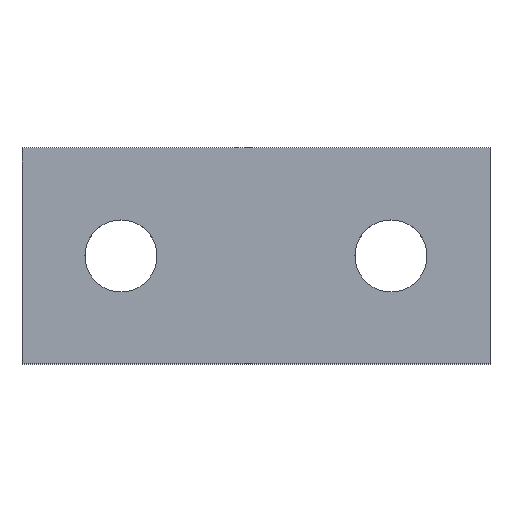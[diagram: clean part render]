
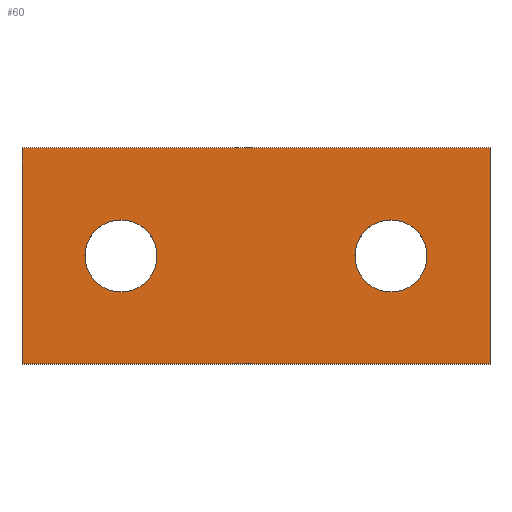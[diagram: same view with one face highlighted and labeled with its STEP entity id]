
A CAD part, top view. The second image highlights one B-rep face of the part: STEP entity #60.
In plain terms, the highlighted planar face has unit normal (0, 0, 1).
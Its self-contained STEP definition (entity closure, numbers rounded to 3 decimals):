
#60=ADVANCED_FACE('',(#83,#84,#85),#86,.T.);
#83=FACE_BOUND('',#108,.T.);
#84=FACE_BOUND('',#109,.T.);
#85=FACE_OUTER_BOUND('',#110,.T.);
#86=PLANE('',#111);
#108=EDGE_LOOP('',(#180,#181));
#109=EDGE_LOOP('',(#182,#183));
#110=EDGE_LOOP('',(#184,#185,#186,#187));
#111=AXIS2_PLACEMENT_3D('',#188,#189,#190);
#180=ORIENTED_EDGE('',*,*,#201,.T.);
#181=ORIENTED_EDGE('',*,*,#197,.T.);
#182=ORIENTED_EDGE('',*,*,#203,.T.);
#183=ORIENTED_EDGE('',*,*,#193,.T.);
#184=ORIENTED_EDGE('',*,*,#204,.F.);
#185=ORIENTED_EDGE('',*,*,#214,.F.);
#186=ORIENTED_EDGE('',*,*,#211,.F.);
#187=ORIENTED_EDGE('',*,*,#208,.F.);
#188=CARTESIAN_POINT('',(45.442,38.,-1.));
#189=DIRECTION('',(0.0,0.0,1.0));
#190=DIRECTION('',(1.0,0.0,0.0));
#193=EDGE_CURVE('',#219,#216,#220,.T.);
#197=EDGE_CURVE('',#227,#224,#228,.T.);
#201=EDGE_CURVE('',#224,#227,#233,.T.);
#203=EDGE_CURVE('',#216,#219,#235,.T.);
#204=EDGE_CURVE('',#236,#237,#238,.T.);
#208=EDGE_CURVE('',#237,#244,#245,.T.);
#211=EDGE_CURVE('',#244,#249,#250,.T.);
#214=EDGE_CURVE('',#249,#236,#254,.T.);
#216=VERTEX_POINT('',#256);
#219=VERTEX_POINT('',#260);
#220=CIRCLE('',#261,1.0);
#224=VERTEX_POINT('',#266);
#227=VERTEX_POINT('',#270);
#228=CIRCLE('',#271,1.0);
#233=CIRCLE('',#277,1.0);
#235=CIRCLE('',#279,1.0);
#236=VERTEX_POINT('',#280);
#237=VERTEX_POINT('',#281);
#238=LINE('',#282,#283);
#244=VERTEX_POINT('',#292);
#245=LINE('',#293,#294);
#249=VERTEX_POINT('',#300);
#250=LINE('',#301,#302);
#254=LINE('',#308,#309);
#256=CARTESIAN_POINT('',(42.692,38.,-1.));
#260=CARTESIAN_POINT('',(40.692,38.,-1.));
#261=AXIS2_PLACEMENT_3D('',#313,#314,#315);
#266=CARTESIAN_POINT('',(50.192,38.,-1.));
#270=CARTESIAN_POINT('',(48.192,38.,-1.));
#271=AXIS2_PLACEMENT_3D('',#321,#322,#323);
#277=AXIS2_PLACEMENT_3D('',#331,#332,#333);
#279=AXIS2_PLACEMENT_3D('',#337,#338,#339);
#280=CARTESIAN_POINT('',(51.942,35.,-1.));
#281=CARTESIAN_POINT('',(38.942,35.,-1.));
#282=CARTESIAN_POINT('',(51.942,35.,-1.));
#283=VECTOR('',#340,1.0);
#292=CARTESIAN_POINT('',(38.942,41.,-1.));
#293=CARTESIAN_POINT('',(38.942,35.,-1.));
#294=VECTOR('',#344,1.0);
#300=CARTESIAN_POINT('',(51.942,41.,-1.));
#301=CARTESIAN_POINT('',(38.942,41.,-1.));
#302=VECTOR('',#347,1.0);
#308=CARTESIAN_POINT('',(51.942,41.,-1.));
#309=VECTOR('',#350,1.0);
#313=CARTESIAN_POINT('',(41.692,38.,-1.));
#314=DIRECTION('',(0.0,0.0,-1.0));
#315=DIRECTION('',(1.0,0.0,0.0));
#321=CARTESIAN_POINT('',(49.192,38.,-1.));
#322=DIRECTION('',(0.0,0.0,-1.0));
#323=DIRECTION('',(1.0,0.0,0.0));
#331=CARTESIAN_POINT('',(49.192,38.,-1.));
#332=DIRECTION('',(0.0,0.0,-1.0));
#333=DIRECTION('',(1.0,0.0,0.0));
#337=CARTESIAN_POINT('',(41.692,38.,-1.));
#338=DIRECTION('',(0.0,0.0,-1.0));
#339=DIRECTION('',(1.0,0.0,0.0));
#340=DIRECTION('',(-1.0,0.,0.0));
#344=DIRECTION('',(0.,1.0,0.0));
#347=DIRECTION('',(1.0,0.,0.0));
#350=DIRECTION('',(0.0,-1.0,0.0));
